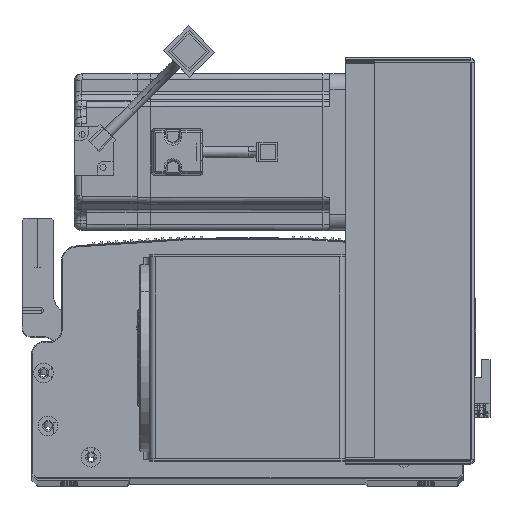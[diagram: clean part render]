
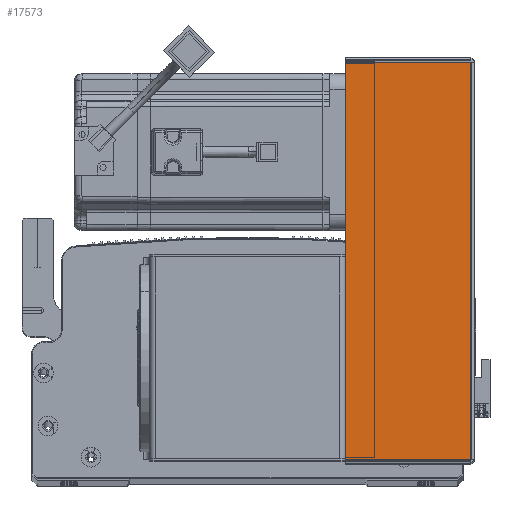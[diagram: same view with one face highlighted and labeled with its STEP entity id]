
A CAD part, top view. The second image highlights one B-rep face of the part: STEP entity #17573.
In plain terms, the highlighted planar face has unit normal (0, 0, 1) as drawn and (0, -1, 0) by its records, which use the part's own axes.
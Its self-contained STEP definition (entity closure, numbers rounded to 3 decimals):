
#2794 = ORIENTED_EDGE ( 'NONE', *, *, #58691, .T. ) ;
#6661 = CARTESIAN_POINT ( 'NONE',  ( 0., -1.5, -203.293 ) ) ;
#7291 = DIRECTION ( 'NONE',  ( 0., 0., 1. ) ) ;
#10365 = ORIENTED_EDGE ( 'NONE', *, *, #37568, .F. ) ;
#10579 = CARTESIAN_POINT ( 'NONE',  ( 0., -1.5, 0. ) ) ;
#13827 = EDGE_CURVE ( 'NONE', #38846, #59359, #38484, .T. ) ;
#13870 = DIRECTION ( 'NONE',  ( 1., 0., 0. ) ) ;
#15399 = CARTESIAN_POINT ( 'NONE',  ( 64.5, -1.5, -0.707 ) ) ;
#17209 = DIRECTION ( 'NONE',  ( 0., 1., 0. ) ) ;
#17573 = ADVANCED_FACE ( 'NONE', ( #42198 ), #59509, .F. ) ;
#28976 = VERTEX_POINT ( 'NONE', #32213 ) ;
#32213 = CARTESIAN_POINT ( 'NONE',  ( 0.737, -1.5, -203.293 ) ) ;
#35343 = CARTESIAN_POINT ( 'NONE',  ( 0.737, -1.5, 0. ) ) ;
#37568 = EDGE_CURVE ( 'NONE', #28976, #38846, #77384, .T. ) ;
#38484 = LINE ( 'NONE', #72577, #89154 ) ;
#38846 = VERTEX_POINT ( 'NONE', #42681 ) ;
#39981 = CARTESIAN_POINT ( 'NONE',  ( 64.5, -1.5, 0. ) ) ;
#42198 = FACE_OUTER_BOUND ( 'NONE', #54580, .T. ) ;
#42681 = CARTESIAN_POINT ( 'NONE',  ( 0.737, -1.5, -0.707 ) ) ;
#49721 = VERTEX_POINT ( 'NONE', #69101 ) ;
#50088 = ORIENTED_EDGE ( 'NONE', *, *, #13827, .F. ) ;
#54430 = AXIS2_PLACEMENT_3D ( 'NONE', #10579, #17209, #85800 ) ;
#54580 = EDGE_LOOP ( 'NONE', ( #10365, #61024, #2794, #50088 ) ) ;
#55321 = LINE ( 'NONE', #39981, #75917 ) ;
#58691 = EDGE_CURVE ( 'NONE', #49721, #59359, #55321, .T. ) ;
#59359 = VERTEX_POINT ( 'NONE', #15399 ) ;
#59509 = PLANE ( 'NONE',  #54430 ) ;
#61024 = ORIENTED_EDGE ( 'NONE', *, *, #71173, .T. ) ;
#68787 = LINE ( 'NONE', #6661, #82823 ) ;
#69101 = CARTESIAN_POINT ( 'NONE',  ( 64.5, -1.5, -203.293 ) ) ;
#71173 = EDGE_CURVE ( 'NONE', #28976, #49721, #68787, .T. ) ;
#72041 = VECTOR ( 'NONE', #7291, 1000. ) ;
#72577 = CARTESIAN_POINT ( 'NONE',  ( 0., -1.5, -0.707 ) ) ;
#75917 = VECTOR ( 'NONE', #88287, 1000. ) ;
#77384 = LINE ( 'NONE', #35343, #72041 ) ;
#78698 = DIRECTION ( 'NONE',  ( 1., 0., 0. ) ) ;
#82823 = VECTOR ( 'NONE', #13870, 1000. ) ;
#85800 = DIRECTION ( 'NONE',  ( -1., 0., 0. ) ) ;
#88287 = DIRECTION ( 'NONE',  ( 0., 0., 1. ) ) ;
#89154 = VECTOR ( 'NONE', #78698, 1000. ) ;
